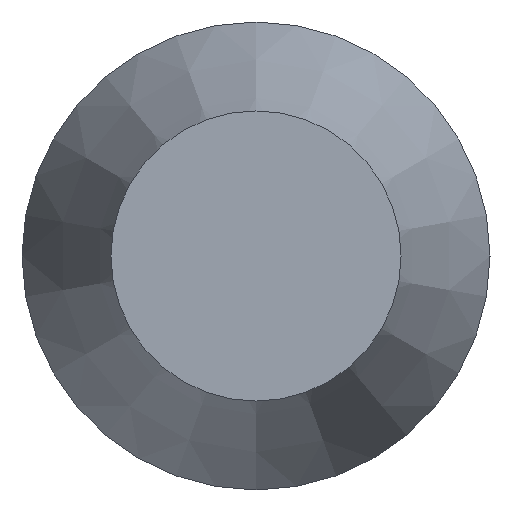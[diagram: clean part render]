
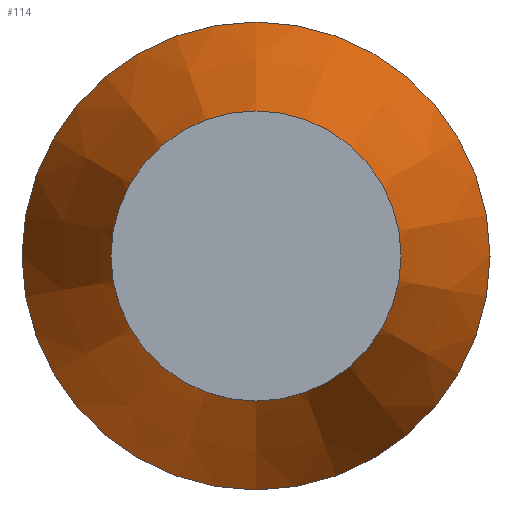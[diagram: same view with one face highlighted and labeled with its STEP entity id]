
A CAD part, left-side view. The second image highlights one B-rep face of the part: STEP entity #114.
In plain terms, the highlighted conical face has half-angle 20 degrees and reference radius 5 mm.
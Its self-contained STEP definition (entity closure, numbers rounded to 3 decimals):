
#95=CONICAL_SURFACE('',#181,5.,20.);
#102=FACE_BOUND('',#128,.T.);
#103=FACE_BOUND('',#129,.T.);
#114=ADVANCED_FACE('',(#102,#103),#95,.T.);
#128=EDGE_LOOP('',(#142));
#129=EDGE_LOOP('',(#143));
#142=ORIENTED_EDGE('',*,*,#162,.F.);
#143=ORIENTED_EDGE('',*,*,#163,.T.);
#155=VERTEX_POINT('',#229);
#156=VERTEX_POINT('',#232);
#162=EDGE_CURVE('',#155,#155,#169,.T.);
#163=EDGE_CURVE('',#156,#156,#170,.T.);
#169=CIRCLE('',#178,2.575);
#170=CIRCLE('',#180,5.);
#178=AXIS2_PLACEMENT_3D('',#228,#198,#199);
#180=AXIS2_PLACEMENT_3D('',#231,#202,#203);
#181=AXIS2_PLACEMENT_3D('',#233,#204,#205);
#198=DIRECTION('',(-1.,0.,0.));
#199=DIRECTION('',(0.,0.,1.));
#202=DIRECTION('',(-1.,0.,0.));
#203=DIRECTION('',(0.,0.,1.));
#204=DIRECTION('',(1.,0.,0.));
#205=DIRECTION('',(0.,0.,-1.));
#228=CARTESIAN_POINT('',(7913.912,6103.288,0.));
#229=CARTESIAN_POINT('',(7913.912,6103.288,2.575));
#231=CARTESIAN_POINT('',(7920.574,6103.288,0.));
#232=CARTESIAN_POINT('',(7920.574,6103.288,5.));
#233=CARTESIAN_POINT('',(7920.574,6103.288,0.));
